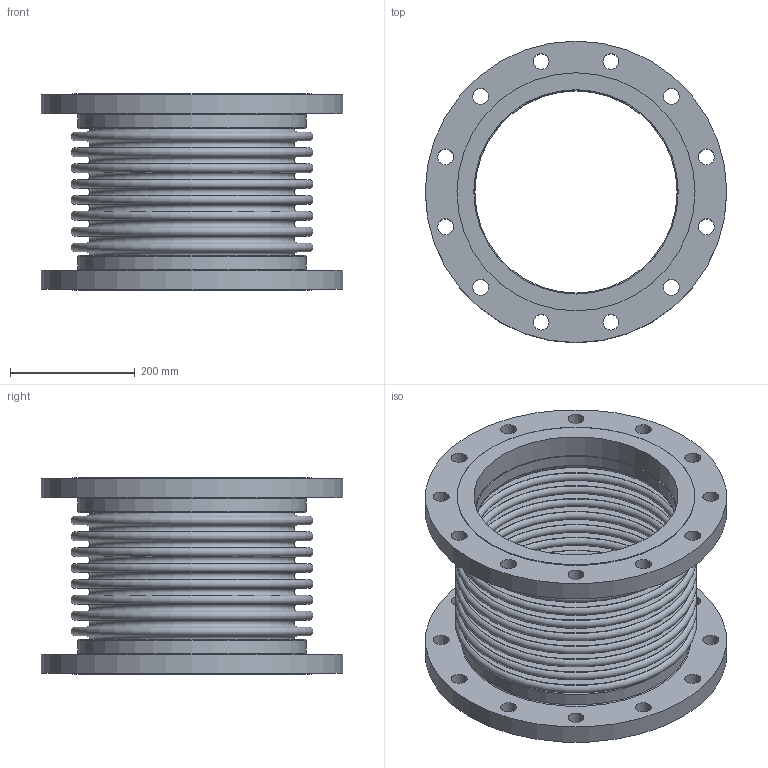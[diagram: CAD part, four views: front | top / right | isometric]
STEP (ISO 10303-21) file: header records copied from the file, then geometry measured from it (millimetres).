
FILE_DESCRIPTION(/* description */ ('EXPANSION JOINT,SINGLE, FLANGED ENDS,12 INCH NOMINAL','CAx-IF Rec.Pracs.---Representation and Presentation of Product Manufacturing Information (PMI)---4.0---2014-10-13'),/* implementation_level */ '2;1');
FILE_NAME(/* name */ 'US-12-8-150S-FLANGED ENDS.stp',/* time_stamp */ '2026-07-31T17:27:24-05:00',/* author */ ('Guadalupe'),/* organization */ (''),/* preprocessor_version */ 'ST-DEVELOPER v20.1',/* originating_system */ 'Autodesk Inventor 2026',/* authorisation */ '');
FILE_SCHEMA (('AP242_MANAGED_MODEL_BASED_3D_ENGINEERING_MIM_LF { 1 0 10303 442 2 1 4 }'));
Length unit declared in the file: inch
Products named in the file (3): 12-150S; 12-150S-02; 12-150S-01
Assembly tree (3 placements, depth 2):
  12-150S
    12-150S-02  x2
    12-150S-01
Bounding box: 482.6 x 482.6 x 313.94 mm (x, y, z)
Volume: 7759143.7 mm3; surface area: 2116269.7 mm2
Topology: 5 solids, 5 shells, 120 faces, 222 edges, 148 vertices
Faces by surface type: plane 46, torus 38, cylinder 36
Full cylindrical faces by diameter (mm): 25.4 x24, 323.85 x2, 326.898 x2, 327.152 x2, 365.252 x2, 381 x2, 482.6 x2
Entity records: 2714 total; most frequent: DIRECTION 550, CARTESIAN_POINT 401, ORIENTED_EDGE 336, AXIS2_PLACEMENT_3D 265, EDGE_CURVE 168, EDGE_LOOP 164, CIRCLE 148, VERTEX_POINT 112
